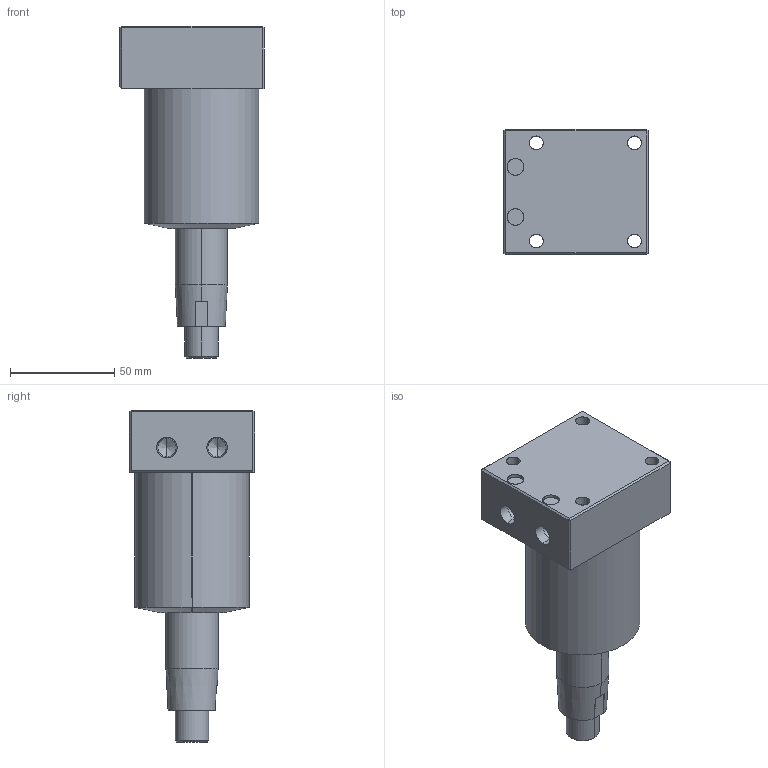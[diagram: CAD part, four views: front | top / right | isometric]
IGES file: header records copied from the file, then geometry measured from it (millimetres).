
Start section: SolidWorks IGES file using analytic representation for surfaces
Global section: file name: E:\ALL SSVT IGS MODEL\ALL-SWING-IGS\SWING-55\SWING-BM-55-TAPER - LH-RH\SB03-552-L-BM-TAPER.IGS; native system: SolidWorks 2019; preprocessor: SolidWorks 2019; author: SSVT; date: 210822.134748; units: millimetre
Bounding box: 69 x 60 x 159 mm (x, y, z)
Surface area: 44766.7 mm2 (no closed solid volume)
Topology: 0 solids, 0 shells, 68 faces, 1020 edges, 1016 vertices
Faces by surface type: revolution 38, bspline 30
